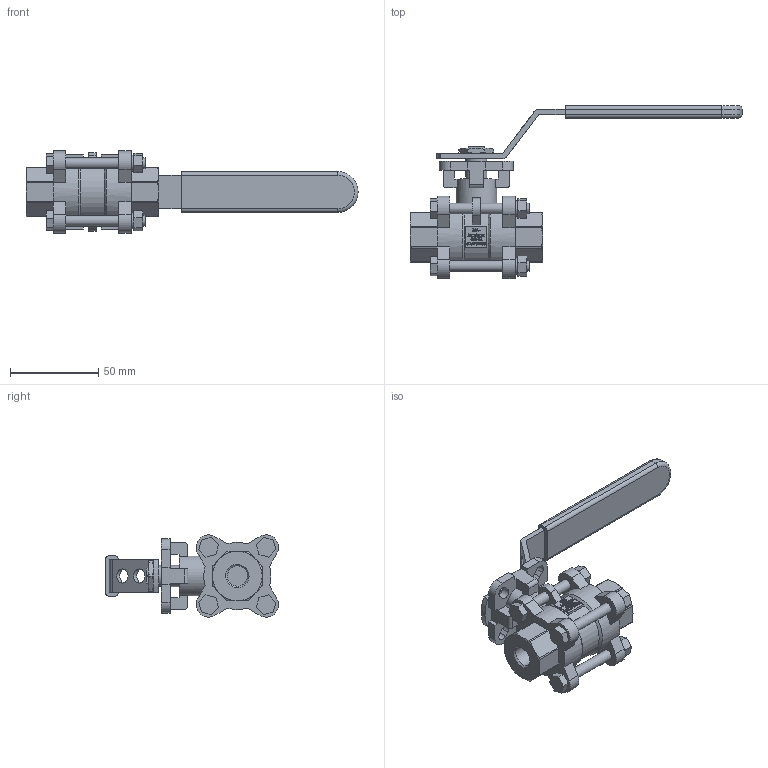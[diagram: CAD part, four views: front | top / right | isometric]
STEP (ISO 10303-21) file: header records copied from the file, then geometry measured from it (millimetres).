
FILE_DESCRIPTION((''),'2;1');
FILE_NAME('K:\Inventor\1 Artikel\11) Muffen-Kugelhähne\11a) manuell\Econosto\470-VA, 7444ISO\470-VA, G0,25\470-VA, G0,25, 3D\470-VA, G0,25, PN68, HH, 3D.stp','2019-10-24T09:33:04',('claudia'),(''),'Autodesk Inventor 2013','Autodesk Inventor 2013','');
FILE_SCHEMA(('AUTOMOTIVE_DESIGN { 1 0 10303 214 1 1 1 1 }'));
Length unit declared in the file: millimetre
Products named in the file (1): Bauteil1
Bounding box: 187.83 x 97.86 x 46.53 mm (x, y, z)
Volume: 117195.9 mm3; surface area: 34802 mm2
Topology: 1 solids, 1 shells, 1397 faces, 3772 edges, 2504 vertices
Faces by surface type: plane 852, bspline 431, cylinder 80, cone 32, torus 2
Full cylindrical faces by diameter (mm): 6 x8, 6.5 x2, 8 x2, 9 x4, 11.445 x2, 12 x1, 23 x1, 26 x1, 38 x2
Entity records: 46902 total; most frequent: CARTESIAN_POINT 14723, ORIENTED_EDGE 7476, DIRECTION 4973, EDGE_CURVE 3738, VECTOR 2581, LINE 2581, VERTEX_POINT 2495, EDGE_LOOP 1581
